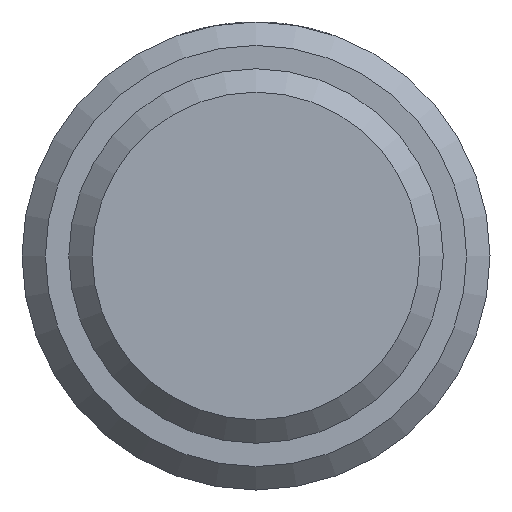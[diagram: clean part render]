
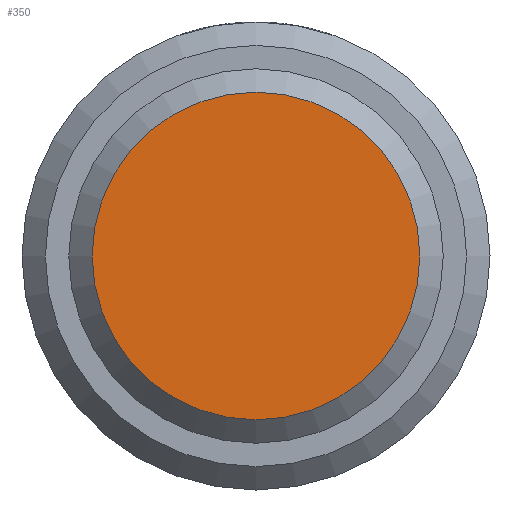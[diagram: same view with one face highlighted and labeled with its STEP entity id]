
A CAD part, left-side view. The second image highlights one B-rep face of the part: STEP entity #350.
In plain terms, the highlighted planar face has unit normal (-1, 0, 0).
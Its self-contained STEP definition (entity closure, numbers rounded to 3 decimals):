
#82=PLANE('',#387);
#98=FACE_OUTER_BOUND('',#130,.T.);
#130=EDGE_LOOP('',(#281));
#161=CIRCLE('',#385,7.);
#193=VERTEX_POINT('',#608);
#229=EDGE_CURVE('',#193,#193,#161,.T.);
#281=ORIENTED_EDGE('',*,*,#229,.F.);
#350=ADVANCED_FACE('',(#98),#82,.T.);
#385=AXIS2_PLACEMENT_3D('',#609,#455,#456);
#387=AXIS2_PLACEMENT_3D('',#612,#459,#460);
#455=DIRECTION('center_axis',(1.,0.,0.));
#456=DIRECTION('ref_axis',(0.,-1.,0.));
#459=DIRECTION('center_axis',(-1.,0.,0.));
#460=DIRECTION('ref_axis',(0.,0.,1.));
#608=CARTESIAN_POINT('',(0.,7.,0.));
#609=CARTESIAN_POINT('Origin',(0.,0.,0.));
#612=CARTESIAN_POINT('Origin',(0.,8.,0.));
